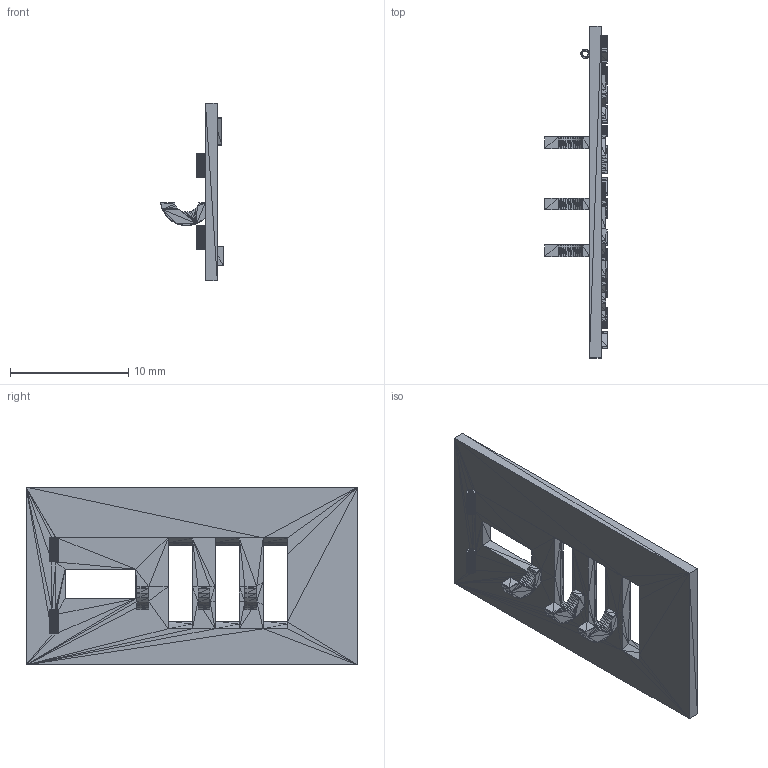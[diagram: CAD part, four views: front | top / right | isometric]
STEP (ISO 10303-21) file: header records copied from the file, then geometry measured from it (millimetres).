
FILE_DESCRIPTION((''),'2;1');
FILE_NAME('door', '2026-10-03T10:00:23', (''), (''), 'ImageToStl.com STEP Converter','', '');
FILE_SCHEMA(('AUTOMOTIVE_DESIGN_CC2'));
Length unit declared in the file: metre
Products named in the file (1): product0
Bounding box: 5.3 x 28 x 15 mm (x, y, z)
Surface area: 1191.9 mm2 (no closed solid volume)
Topology: 0 solids, 5632 shells, 5632 faces, 16892 edges, 2852 vertices
Faces by surface type: plane 5632
Entity records: 129636 total; most frequent: DIRECTION 28162, ORIENTED_EDGE 16896, EDGE_CURVE 16896, LINE 16896, VECTOR 16896, AXIS2_PLACEMENT_3D 5633, FACE_SURFACE 5632, PLANE 5632
